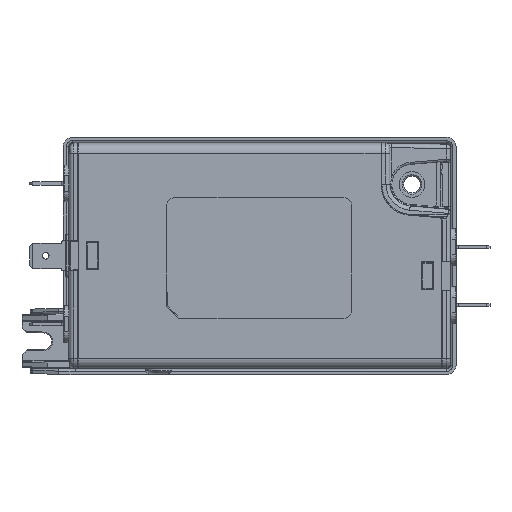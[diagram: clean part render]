
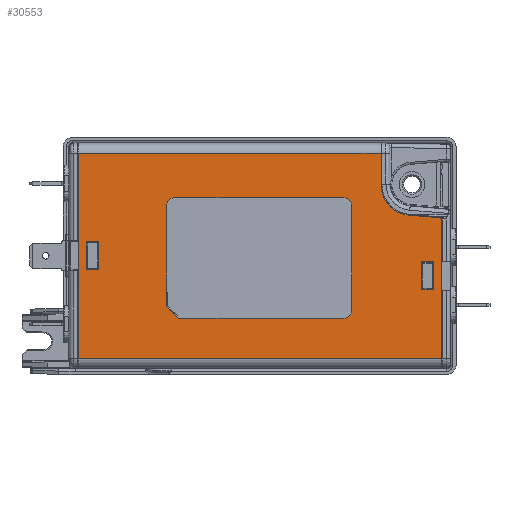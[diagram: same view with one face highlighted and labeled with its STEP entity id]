
A CAD part, top view. The second image highlights one B-rep face of the part: STEP entity #30553.
In plain terms, the highlighted planar face has unit normal (0, 0, 1).
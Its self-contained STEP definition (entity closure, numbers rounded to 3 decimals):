
#1708=FACE_BOUND('',#5679,.T.);
#1709=FACE_BOUND('',#5680,.T.);
#1710=FACE_BOUND('',#5681,.T.);
#2237=CIRCLE('',#32649,7.5);
#2354=CIRCLE('',#33042,2.);
#2355=CIRCLE('',#33045,2.);
#2356=CIRCLE('',#33048,2.);
#3891=FACE_OUTER_BOUND('',#5678,.T.);
#5678=EDGE_LOOP('',(#23417,#23418,#23419,#23420,#23421,#23422,#23423,#23424));
#5679=EDGE_LOOP('',(#23425,#23426,#23427,#23428));
#5680=EDGE_LOOP('',(#23429,#23430,#23431,#23432));
#5681=EDGE_LOOP('',(#23433,#23434,#23435,#23436,#23437,#23438,#23439,#23440,
#23441,#23442));
#7386=LINE('',#49272,#9932);
#7414=LINE('',#49347,#9960);
#7420=LINE('',#49363,#9966);
#7422=LINE('',#49367,#9968);
#7428=LINE('',#49380,#9974);
#7824=LINE('',#50945,#10370);
#7827=LINE('',#50951,#10373);
#7829=LINE('',#50956,#10375);
#7833=LINE('',#50965,#10379);
#7836=LINE('',#50973,#10382);
#7908=LINE('',#51124,#10454);
#7910=LINE('',#51129,#10456);
#7951=LINE('',#51215,#10497);
#7955=LINE('',#51224,#10501);
#7958=LINE('',#51229,#10504);
#8026=LINE('',#51379,#10572);
#8027=LINE('',#51382,#10573);
#8028=LINE('',#51384,#10574);
#8029=LINE('',#51386,#10575);
#8030=LINE('',#51387,#10576);
#8031=LINE('',#51389,#10577);
#8032=LINE('',#51390,#10578);
#9932=VECTOR('',#38144,10.);
#9960=VECTOR('',#38206,10.);
#9966=VECTOR('',#38224,10.);
#9968=VECTOR('',#38228,10.);
#9974=VECTOR('',#38242,10.);
#10370=VECTOR('',#39400,10.);
#10373=VECTOR('',#39405,10.);
#10375=VECTOR('',#39409,10.);
#10379=VECTOR('',#39419,10.);
#10382=VECTOR('',#39428,10.);
#10454=VECTOR('',#39552,10.);
#10456=VECTOR('',#39558,10.);
#10497=VECTOR('',#39633,10.);
#10501=VECTOR('',#39643,10.);
#10504=VECTOR('',#39648,10.);
#10572=VECTOR('',#39774,10.);
#10573=VECTOR('',#39775,10.);
#10574=VECTOR('',#39776,10.);
#10575=VECTOR('',#39777,10.);
#10576=VECTOR('',#39778,10.);
#10577=VECTOR('',#39779,10.);
#10578=VECTOR('',#39780,10.);
#12581=VERTEX_POINT('',#49269);
#12582=VERTEX_POINT('',#49271);
#12611=VERTEX_POINT('',#49344);
#12612=VERTEX_POINT('',#49346);
#12613=VERTEX_POINT('',#49352);
#12616=VERTEX_POINT('',#49362);
#12617=VERTEX_POINT('',#49366);
#12620=VERTEX_POINT('',#49379);
#12983=VERTEX_POINT('',#50941);
#12984=VERTEX_POINT('',#50943);
#12985=VERTEX_POINT('',#50947);
#12986=VERTEX_POINT('',#50949);
#12987=VERTEX_POINT('',#50953);
#12988=VERTEX_POINT('',#50955);
#12989=VERTEX_POINT('',#50959);
#12990=VERTEX_POINT('',#50963);
#12991=VERTEX_POINT('',#50967);
#12992=VERTEX_POINT('',#50971);
#13045=VERTEX_POINT('',#51122);
#13046=VERTEX_POINT('',#51128);
#13074=VERTEX_POINT('',#51214);
#13121=VERTEX_POINT('',#51380);
#13122=VERTEX_POINT('',#51381);
#13123=VERTEX_POINT('',#51383);
#13124=VERTEX_POINT('',#51385);
#13125=VERTEX_POINT('',#51388);
#15870=EDGE_CURVE('',#12582,#12581,#7386,.T.);
#15908=EDGE_CURVE('',#12612,#12611,#7414,.T.);
#15911=EDGE_CURVE('',#12613,#12612,#2237,.T.);
#15916=EDGE_CURVE('',#12616,#12613,#7420,.T.);
#15918=EDGE_CURVE('',#12616,#12617,#7422,.T.);
#15924=EDGE_CURVE('',#12617,#12620,#7428,.T.);
#16498=EDGE_CURVE('',#12984,#12983,#7824,.T.);
#16501=EDGE_CURVE('',#12986,#12984,#7827,.T.);
#16503=EDGE_CURVE('',#12987,#12988,#7829,.T.);
#16506=EDGE_CURVE('',#12989,#12987,#2354,.T.);
#16508=EDGE_CURVE('',#12990,#12989,#7833,.T.);
#16510=EDGE_CURVE('',#12991,#12990,#2355,.T.);
#16512=EDGE_CURVE('',#12992,#12991,#7836,.T.);
#16513=EDGE_CURVE('',#12983,#12992,#2356,.T.);
#16588=EDGE_CURVE('',#12611,#13045,#7908,.T.);
#16590=EDGE_CURVE('',#13046,#12582,#7910,.T.);
#16632=EDGE_CURVE('',#13074,#12620,#7951,.T.);
#16637=EDGE_CURVE('',#12985,#12986,#7955,.T.);
#16640=EDGE_CURVE('',#12988,#12985,#7958,.T.);
#16710=EDGE_CURVE('',#13074,#13045,#8026,.T.);
#16711=EDGE_CURVE('',#13121,#13122,#8027,.T.);
#16712=EDGE_CURVE('',#13122,#13123,#8028,.T.);
#16713=EDGE_CURVE('',#13123,#13124,#8029,.T.);
#16714=EDGE_CURVE('',#13124,#13121,#8030,.T.);
#16715=EDGE_CURVE('',#12581,#13125,#8031,.T.);
#16716=EDGE_CURVE('',#13125,#13046,#8032,.T.);
#23417=ORIENTED_EDGE('',*,*,#15918,.F.);
#23418=ORIENTED_EDGE('',*,*,#15916,.T.);
#23419=ORIENTED_EDGE('',*,*,#15911,.T.);
#23420=ORIENTED_EDGE('',*,*,#15908,.T.);
#23421=ORIENTED_EDGE('',*,*,#16588,.T.);
#23422=ORIENTED_EDGE('',*,*,#16710,.F.);
#23423=ORIENTED_EDGE('',*,*,#16632,.T.);
#23424=ORIENTED_EDGE('',*,*,#15924,.F.);
#23425=ORIENTED_EDGE('',*,*,#16711,.T.);
#23426=ORIENTED_EDGE('',*,*,#16712,.T.);
#23427=ORIENTED_EDGE('',*,*,#16713,.T.);
#23428=ORIENTED_EDGE('',*,*,#16714,.T.);
#23429=ORIENTED_EDGE('',*,*,#16715,.T.);
#23430=ORIENTED_EDGE('',*,*,#16716,.T.);
#23431=ORIENTED_EDGE('',*,*,#16590,.T.);
#23432=ORIENTED_EDGE('',*,*,#15870,.T.);
#23433=ORIENTED_EDGE('',*,*,#16503,.F.);
#23434=ORIENTED_EDGE('',*,*,#16506,.F.);
#23435=ORIENTED_EDGE('',*,*,#16508,.F.);
#23436=ORIENTED_EDGE('',*,*,#16510,.F.);
#23437=ORIENTED_EDGE('',*,*,#16512,.F.);
#23438=ORIENTED_EDGE('',*,*,#16513,.F.);
#23439=ORIENTED_EDGE('',*,*,#16498,.F.);
#23440=ORIENTED_EDGE('',*,*,#16501,.F.);
#23441=ORIENTED_EDGE('',*,*,#16637,.F.);
#23442=ORIENTED_EDGE('',*,*,#16640,.F.);
#27581=PLANE('',#33124);
#30553=ADVANCED_FACE('',(#3891,#1708,#1709,#1710),#27581,.T.);
#32649=AXIS2_PLACEMENT_3D('',#49353,#38213,#38214);
#33042=AXIS2_PLACEMENT_3D('',#50961,#39414,#39415);
#33045=AXIS2_PLACEMENT_3D('',#50969,#39423,#39424);
#33048=AXIS2_PLACEMENT_3D('',#50975,#39431,#39432);
#33124=AXIS2_PLACEMENT_3D('',#51378,#39772,#39773);
#38144=DIRECTION('',(0.,-1.,0.));
#38206=DIRECTION('',(0.,1.,0.));
#38213=DIRECTION('center_axis',(0.,0.,-1.));
#38214=DIRECTION('ref_axis',(-1.,0.,0.));
#38224=DIRECTION('',(-0.996,0.087,0.));
#38228=DIRECTION('',(0.676,-0.737,0.));
#38242=DIRECTION('',(0.,-1.,0.));
#39400=DIRECTION('',(1.,0.,0.));
#39405=DIRECTION('',(0.707,-0.707,0.));
#39409=DIRECTION('',(0.,-1.,0.));
#39414=DIRECTION('center_axis',(0.,0.,
1.));
#39415=DIRECTION('ref_axis',(-0.707,0.707,0.));
#39419=DIRECTION('',(-1.,0.,0.));
#39423=DIRECTION('center_axis',(0.,0.,
1.));
#39424=DIRECTION('ref_axis',(0.707,0.707,0.));
#39428=DIRECTION('',(0.,1.,0.));
#39431=DIRECTION('center_axis',(0.,0.,
1.));
#39432=DIRECTION('ref_axis',(0.707,-0.707,0.));
#39552=DIRECTION('',(-1.,0.,0.));
#39558=DIRECTION('',(1.,0.,0.));
#39633=DIRECTION('',(1.,0.,0.));
#39643=DIRECTION('',(0.707,-0.707,0.));
#39648=DIRECTION('',(0.,-1.,0.));
#39772=DIRECTION('center_axis',(0.,0.,1.));
#39773=DIRECTION('ref_axis',(0.,-1.,0.));
#39774=DIRECTION('',(0.,1.,0.));
#39775=DIRECTION('',(-1.,0.,0.));
#39776=DIRECTION('',(0.,1.,0.));
#39777=DIRECTION('',(1.,0.,0.));
#39778=DIRECTION('',(0.,-1.,0.));
#39779=DIRECTION('',(-1.,0.,0.));
#39780=DIRECTION('',(0.,1.,0.));
#49269=CARTESIAN_POINT('',(42.2,-8.5,34.9));
#49271=CARTESIAN_POINT('',(42.2,-1.5,34.9));
#49272=CARTESIAN_POINT('',(42.2,-0.75,34.9));
#49344=CARTESIAN_POINT('',(29.2,25.5,34.9));
#49346=CARTESIAN_POINT('',(29.2,17.6,34.9));
#49347=CARTESIAN_POINT('',(29.2,8.8,34.9));
#49352=CARTESIAN_POINT('',(36.046,10.129,34.9));
#49353=CARTESIAN_POINT('Origin',(36.7,17.6,34.9));
#49362=CARTESIAN_POINT('',(43.702,9.459,34.9));
#49363=CARTESIAN_POINT('',(22.205,11.339,34.9));
#49366=CARTESIAN_POINT('',(44.2,8.915,34.9));
#49367=CARTESIAN_POINT('',(35.992,17.873,34.9));
#49379=CARTESIAN_POINT('',(44.2,-25.5,34.9));
#49380=CARTESIAN_POINT('',(44.2,-28.,34.9));
#50941=CARTESIAN_POINT('',(19.9,-15.525,34.9));
#50943=CARTESIAN_POINT('',(-21.1,-15.525,34.9));
#50945=CARTESIAN_POINT('',(-24.1,-15.525,34.9));
#50947=CARTESIAN_POINT('',(-24.1,-12.525,34.9));
#50949=CARTESIAN_POINT('',(-21.625,-15.,34.9));
#50951=CARTESIAN_POINT('',(-20.6,-16.025,34.9));
#50953=CARTESIAN_POINT('',(-24.1,12.475,34.9));
#50955=CARTESIAN_POINT('',(-24.1,-9.025,34.9));
#50956=CARTESIAN_POINT('',(-24.1,14.475,34.9));
#50959=CARTESIAN_POINT('',(-22.1,14.475,34.9));
#50961=CARTESIAN_POINT('Origin',(-22.1,12.475,34.9));
#50963=CARTESIAN_POINT('',(19.9,14.475,34.9));
#50965=CARTESIAN_POINT('',(21.9,14.475,34.9));
#50967=CARTESIAN_POINT('',(21.9,12.475,34.9));
#50969=CARTESIAN_POINT('Origin',(19.9,12.475,34.9));
#50971=CARTESIAN_POINT('',(21.9,-13.525,34.9));
#50973=CARTESIAN_POINT('',(21.9,-15.525,34.9));
#50975=CARTESIAN_POINT('Origin',(19.9,-13.525,34.9));
#51122=CARTESIAN_POINT('',(-46.1,25.5,34.9));
#51124=CARTESIAN_POINT('',(21.625,25.5,34.9));
#51128=CARTESIAN_POINT('',(39.2,-1.5,34.9));
#51129=CARTESIAN_POINT('',(19.125,-1.5,34.9));
#51214=CARTESIAN_POINT('',(-46.1,-25.5,34.9));
#51215=CARTESIAN_POINT('',(-23.525,-25.5,34.9));
#51224=CARTESIAN_POINT('',(-20.6,-16.025,34.9));
#51229=CARTESIAN_POINT('',(-24.1,14.475,34.9));
#51378=CARTESIAN_POINT('Origin',(-0.95,0.,34.9));
#51379=CARTESIAN_POINT('',(-46.1,28.,34.9));
#51380=CARTESIAN_POINT('',(-41.1,-3.5,34.9));
#51381=CARTESIAN_POINT('',(-44.1,-3.5,34.9));
#51382=CARTESIAN_POINT('',(-21.025,-3.5,34.9));
#51383=CARTESIAN_POINT('',(-44.1,3.5,34.9));
#51384=CARTESIAN_POINT('',(-44.1,0.,34.9));
#51385=CARTESIAN_POINT('',(-41.1,3.5,34.9));
#51386=CARTESIAN_POINT('',(-22.525,3.5,34.9));
#51387=CARTESIAN_POINT('',(-41.1,1.75,34.9));
#51388=CARTESIAN_POINT('',(39.2,-8.5,34.9));
#51389=CARTESIAN_POINT('',(20.625,-8.5,34.9));
#51390=CARTESIAN_POINT('',(39.2,-4.25,34.9));
